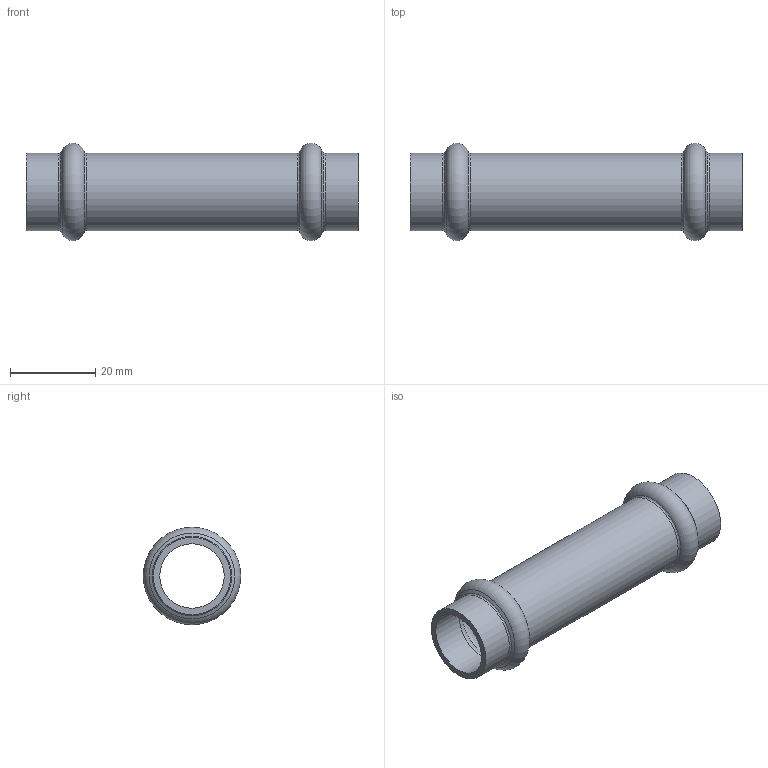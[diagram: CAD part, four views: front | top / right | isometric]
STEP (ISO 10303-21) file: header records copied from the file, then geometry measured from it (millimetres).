
FILE_DESCRIPTION((''),'2;1');
FILE_NAME('G:\Nirosan-Schmiedefeld\Technics\CAD\Bauteile VA\015\69270S15(0).stp','2011-10-26T11:51:20',('herberg'),(''),'Autodesk Inventor 2009','Autodesk Inventor 2009','');
FILE_SCHEMA(('AUTOMOTIVE_DESIGN { 1 0 10303 214 1 1 1 1 }'));
Length unit declared in the file: millimetre
Products named in the file (1): 69270S15(0)
Bounding box: 78 x 22.9 x 22.9 mm (x, y, z)
Volume: 6654.1 mm3; surface area: 9028.7 mm2
Topology: 1 solids, 1 shells, 24 faces, 46 edges, 24 vertices
Faces by surface type: bspline 6, cylinder 6, torus 6, cone 4, plane 2
Full cylindrical faces by diameter (mm): 15.15 x3, 18.15 x3
Entity records: 826 total; most frequent: CARTESIAN_POINT 409, DIRECTION 86, ORIENTED_EDGE 48, EDGE_LOOP 48, AXIS2_PLACEMENT_3D 43, VERTEX_POINT 24, CIRCLE 24, EDGE_CURVE 24
